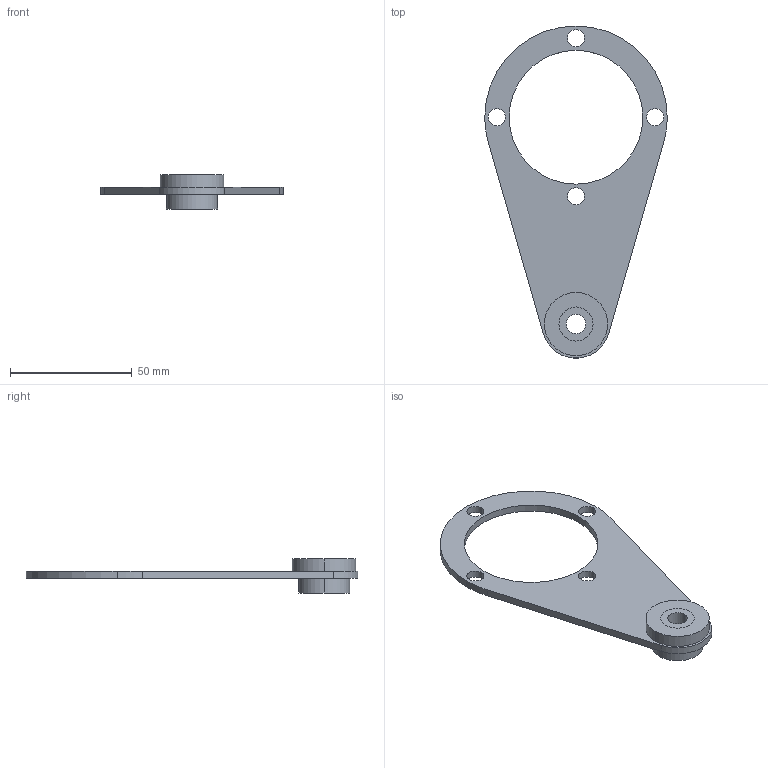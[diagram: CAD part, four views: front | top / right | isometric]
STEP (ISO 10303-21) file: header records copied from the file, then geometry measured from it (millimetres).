
FILE_DESCRIPTION (( 'STEP AP203' ), '1' );
FILE_NAME ('CALM30-TA.STEP', '2014-09-02T03:37:33', ( 'user' ), ( '' ), 'SwSTEP 2.0', 'SolidWorks 2012', '' );
FILE_SCHEMA (( 'CONFIG_CONTROL_DESIGN' ));
Length unit declared in the file: millimetre
Products named in the file (1): CALM30-TA
Bounding box: 75 x 136.45 x 14 mm (x, y, z)
Volume: 17627.9 mm3; surface area: 13150.2 mm2
Topology: 2 solids, 2 shells, 32 faces, 78 edges, 52 vertices
Faces by surface type: cylinder 24, plane 8
Entity records: 1073 total; most frequent: DIRECTION 192, CARTESIAN_POINT 163, ORIENTED_EDGE 156, AXIS2_PLACEMENT_3D 81, EDGE_CURVE 78, VERTEX_POINT 52, CIRCLE 48, EDGE_LOOP 48
